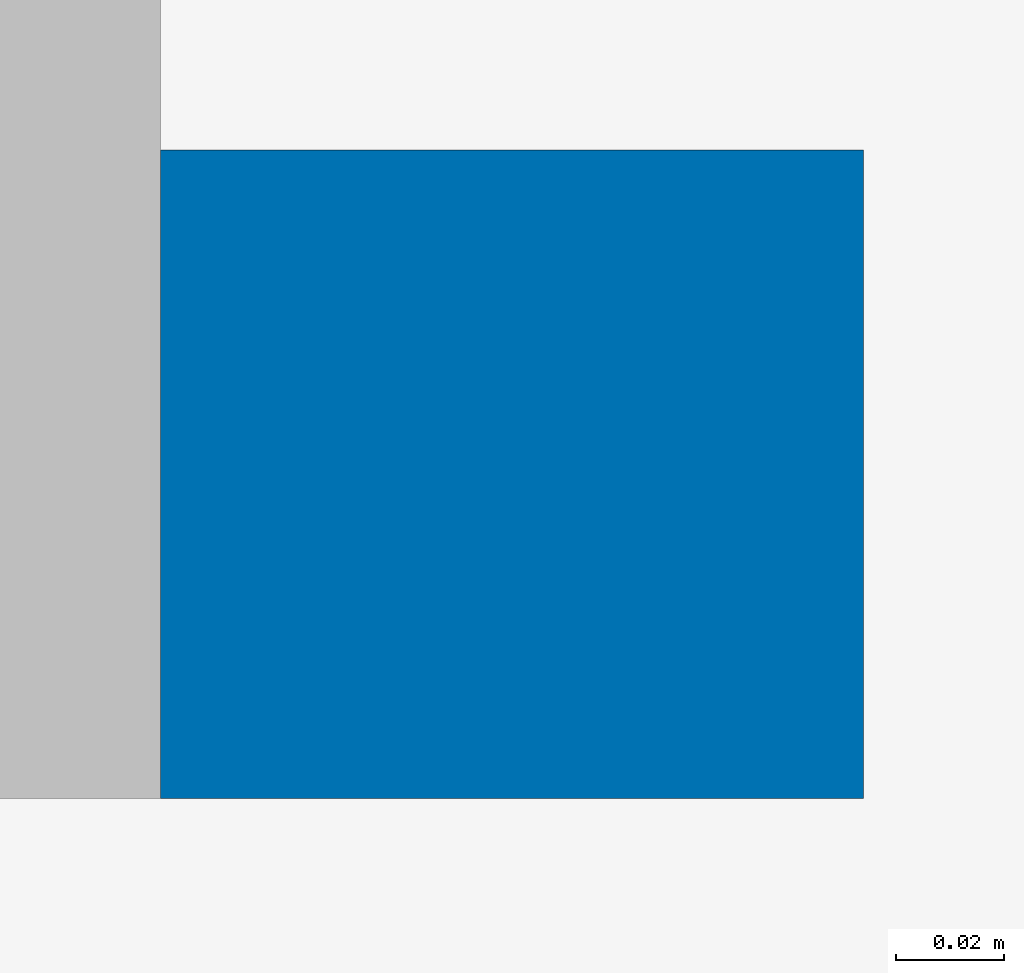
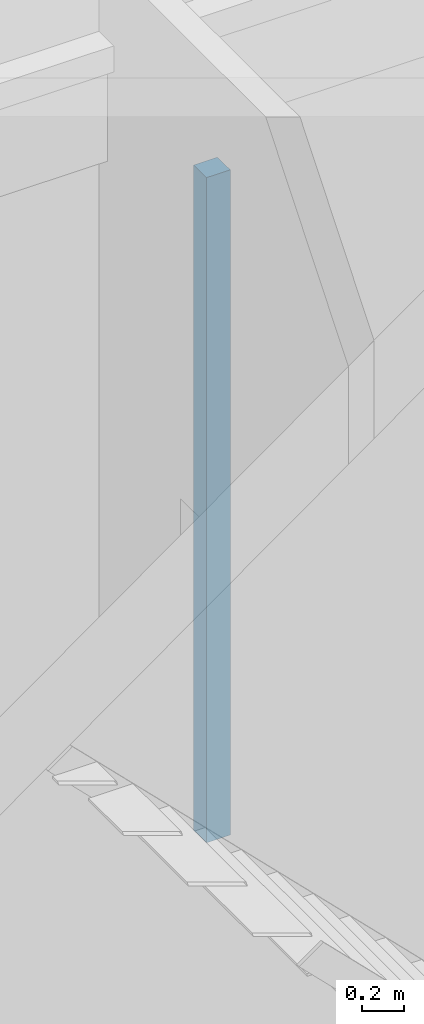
# One storey, part 147 of 301: 1 wall.
"""IFC2X3 building model written with IfcOpenShell, lengths in millimetres."""

from ifc_helpers import new_model, entity, si_unit, converted_unit, derived_unit, money_unit, direction, frame, origin_with_axes, place, context, subcontext, project, spatial, faceted_brep, material, type_object, element, save


model = new_model("IFC2X3")

# Units and contexts
model_context = context("Model", 3, precision=0.01, world=origin_with_axes(), true_north=direction((0.0, 1.0)))
body_context = subcontext(model_context, "Body", "Model", "MODEL_VIEW")
ifc_project = project(units=[si_unit("LENGTHUNIT", "METRE", prefix="MILLI"), si_unit("AREAUNIT", "SQUARE_METRE"), si_unit("VOLUMEUNIT", "CUBIC_METRE"), converted_unit("PLANEANGLEUNIT", "DEGREE", entity("IfcPlaneAngleMeasure", 0.0174532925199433), si_unit("PLANEANGLEUNIT", "RADIAN"), dimensions=[0, 0, 0, 0, 0, 0, 0]), money_unit("EUR"), converted_unit("TIMEUNIT", "Year", entity("IfcTimeMeasure", 31557600.0), si_unit("TIMEUNIT", "SECOND"), dimensions=[0, 0, 1, 0, 0, 0, 0]), si_unit("MASSUNIT", "GRAM", prefix="KILO"), si_unit("THERMODYNAMICTEMPERATUREUNIT", "DEGREE_CELSIUS"), si_unit("LUMINOUSINTENSITYUNIT", "LUMEN"), si_unit("ENERGYUNIT", "JOULE", prefix="MEGA"), derived_unit("THERMALCONDUCTANCEUNIT", [(si_unit("POWERUNIT", "WATT"), 1), (si_unit("LENGTHUNIT", "METRE"), -1), (si_unit("THERMODYNAMICTEMPERATUREUNIT", "KELVIN"), -1)]), derived_unit("SPECIFICHEATCAPACITYUNIT", [(si_unit("ENERGYUNIT", "JOULE"), 1), (si_unit("MASSUNIT", "GRAM", prefix="KILO"), -1), (si_unit("THERMODYNAMICTEMPERATUREUNIT", "KELVIN"), -1)]), derived_unit("MASSDENSITYUNIT", [(si_unit("MASSUNIT", "GRAM", prefix="KILO"), 1), (si_unit("VOLUMEUNIT", "CUBIC_METRE"), -1)])], contexts=[model_context])

# Site, building, storey
site_placement = place(None, frame((0.0, 0.0, 8650.0), z_axis=(0.0, 0.0, 1.0), x_axis=(1.0, 0.0, 0.0)))
site = spatial("IfcSite", under=ifc_project, at=site_placement, Name="43301:001:0844", CompositionType="ELEMENT")
building_placement = place(site_placement, origin_with_axes())
building = spatial("IfcBuilding", under=site, at=building_placement, Name="Kuressaare Ametikooli tuulikute mehaanikute õppekorpus", CompositionType="ELEMENT")
storey_placement = place(building_placement, origin_with_axes())
storey = spatial("IfcBuildingStorey", under=building, at=storey_placement, Name="1.korrus", CompositionType="ELEMENT", Elevation=0.0)

# Wall
ifc_material = material(Name="GENEERILINE - KONSTRUKTRIOON")
wall_type = type_object("IfcWallType", Name="GENEERILINE - KONSTRUKTRIOON 120", PredefinedType="NOTDEFINED")
wall_placement = place(storey_placement, frame((100441.6843510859, 73525.21836520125, 44.99999999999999), z_axis=(0.0, 0.0, 1.0), x_axis=(-1.0, 0.0, 0.0)))
element("IfcWall", 1, at=wall_placement, inside=storey, type_object=wall_type, material=ifc_material, Name="SS-XX", context=body_context, shape_type="Brep", body=[
    faceted_brep([(0.0, -120.0000000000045, 3830.0), (129.9999999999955, -120.0000000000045, 3830.0), (129.9999999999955, 0.0, 3830.0), (0.0, 0.0, 3830.0), (0.0, -120.0000000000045, 0.0), (129.9999999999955, -120.0000000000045, 0.0), (129.9999999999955, 0.0, 0.0), (0.0, 0.0, 0.0)], [[[0, 1, 2, 3]], [[4, 5, 1, 0]], [[2, 1, 5, 6]], [[3, 2, 6, 7]], [[4, 0, 3, 7]], [[7, 6, 5, 4]]]),
])

save(model, "model.ifc")
